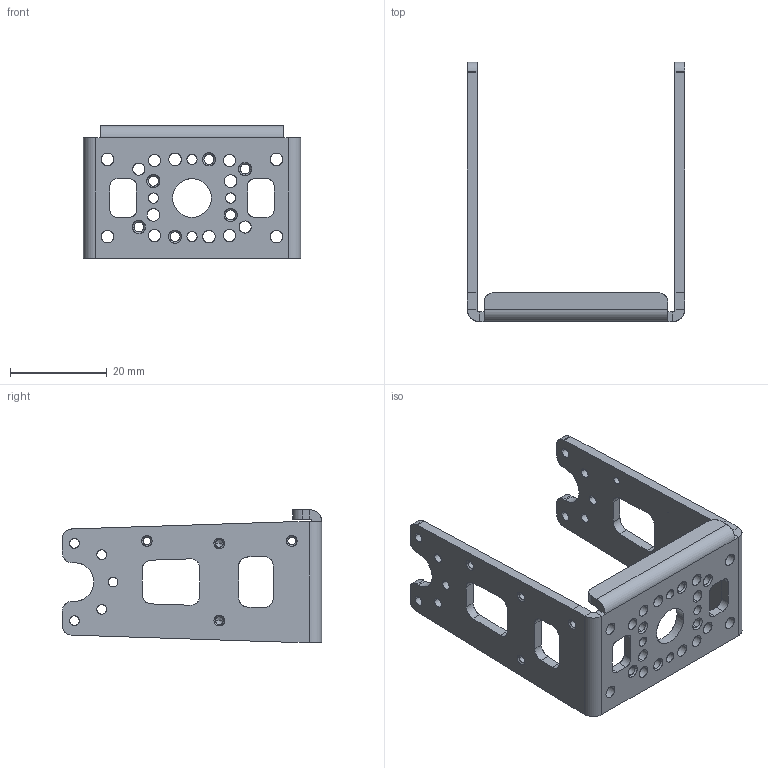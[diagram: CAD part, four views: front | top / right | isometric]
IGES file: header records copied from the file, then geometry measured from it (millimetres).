
Global section: file name: C:\Users\Knabe\Documents\Classes\8 Semester 8\DARwIn\Deliverables\DARwIn OP\DARwIn OP Part Files\OP 3D CAD Files\3D IGS\16_FR07_H132.igs; native system: NX V7.0; preprocessor: SIEMENS PLM Software NX 7.0; date: 20110525.180920; units: millimetre
Bounding box: 45 x 53.7 x 27.5 mm (x, y, z)
Surface area: 7713 mm2 (no closed solid volume)
Topology: 0 solids, 0 shells, 228 faces, 1806 edges, 1798 vertices
Faces by surface type: bspline 228
